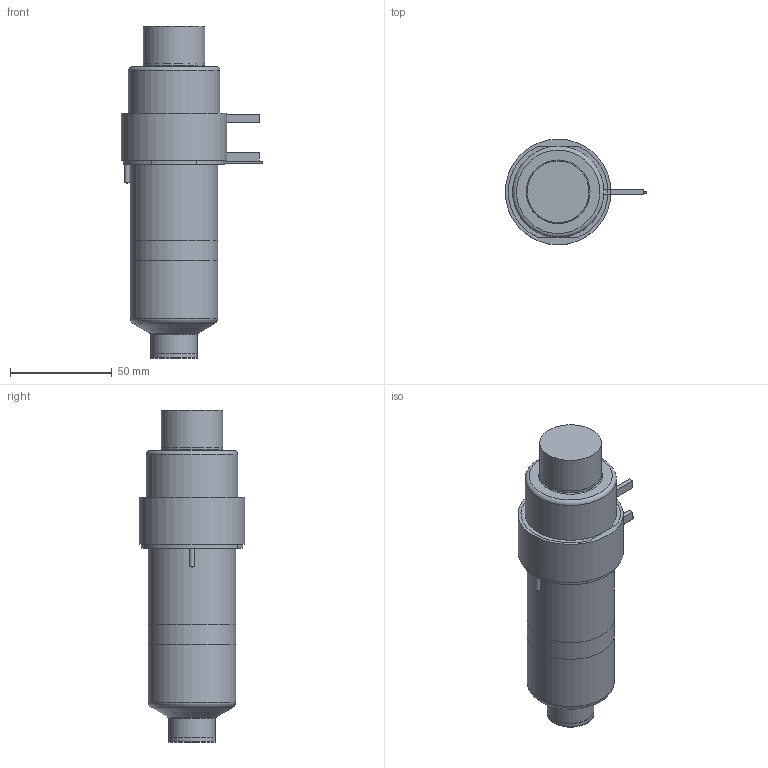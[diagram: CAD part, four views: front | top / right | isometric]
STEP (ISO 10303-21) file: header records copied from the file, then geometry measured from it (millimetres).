
FILE_DESCRIPTION(/* description */ (''),/* implementation_level */ '2;1');
FILE_NAME(/* name */ 'SXTBN-SXIBN-SXOBN27095_200C_b',/* time_stamp */ '2007-01-24T17:16:56+13:00',/* author */ (''),/* organization */ (''),/* preprocessor_version */ 'ST-DEVELOPER v9',/* originating_system */ 'UGS - NX 4.0',/* authorisation */ '');
FILE_SCHEMA (('CONFIG_CONTROL_DESIGN'));
Length unit declared in the file: millimetre
Products named in the file (1): SXTBN-SXIBN-SXOBN27095_200C_b
Bounding box: 69.6 x 52 x 163.45 mm (x, y, z)
Volume: 407248.3 mm3; surface area: 51850.4 mm2
Topology: 7 solids, 7 shells, 92 faces, 181 edges, 117 vertices
Faces by surface type: plane 43, cylinder 28, torus 10, cone 10, bspline 1
Full cylindrical faces by diameter (mm): 1 x3, 2 x1, 2.5 x2, 12 x1, 22.61 x1, 23.01 x2, 27.5 x1, 30 x1, 30.4 x1, 38.1 x2, 43 x2, 45 x1, 50 x1, 52 x1
Entity records: 2377 total; most frequent: CARTESIAN_POINT 543, DIRECTION 384, ORIENTED_EDGE 278, AXIS2_PLACEMENT_3D 167, EDGE_LOOP 140, EDGE_CURVE 139, VERTEX_POINT 110, ADVANCED_FACE 92
